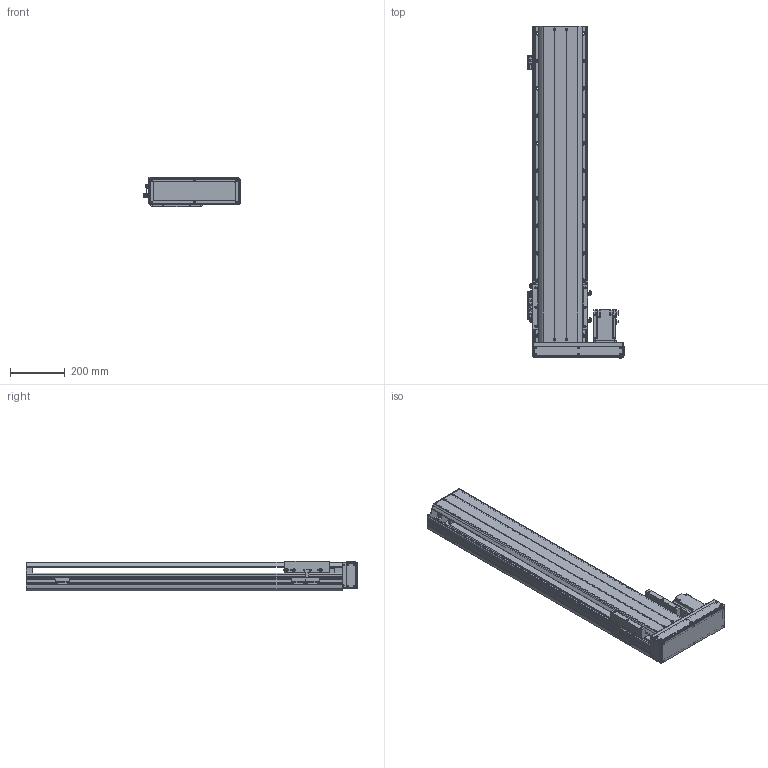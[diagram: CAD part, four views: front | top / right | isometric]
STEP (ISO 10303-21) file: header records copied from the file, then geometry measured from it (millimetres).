
FILE_DESCRIPTION(/* description */ ('MANUFACTURE'),/* implementation_level */ '2;1');
FILE_NAME(/* name */ '\\192.168.0.160\disk1\HAN SHIN Master\B-설계부문\C-표준\B-2024년\BC02-표준도면\+로봇 개선표준도면\표준 승인도 작업 폴더\3D\HG200\HG200병렬\우병렬\HG200-R70-N-0900-L10.stp',/* time_stamp */ '2024-02-23T17:54:25+09:00',/* author */ ('User'),/* organization */ (''),/* preprocessor_version */ 'ST-DEVELOPER v18.1',/* originating_system */ 'Autodesk Inventor 2022',/* authorisation */ 'LIP');
FILE_SCHEMA (('AUTOMOTIVE_DESIGN { 1 0 10303 214 3 1 1 }'));
Products named in the file (22): HG200-L70-N-0500-R10; HR200 S BASE-개선; HR180 FRONT BLOCK; HR180 FRONT BLOCK_1; HR120 STOPPER; HR200 S UPCOVER; HR200 TABLE (W,N); 750W MOTOR PLATE; HG200 750W LR MOTOR PLATE-사출; hg-kr73_; 화살표; HR160 400W LR BELT COVER; HR200 ACRYL COVER -1; HR200 ACRYL COVER -1_1; HR200 ACRYL COVER -1_2; HG200 BOTTOM COVER; HR200 SENSOR DOG; SENSOR BRK(EE-SX674A); EE_SX674A; hsr_ftht_A-M6F_grease_nipple_joint; NIPPLE CAP(신규); HR200 FRONT COVER
Assembly tree (36 placements, depth 2):
  HG200-L70-N-0500-R10
    HR200 S BASE-개선
    HR180 FRONT BLOCK
    HR180 FRONT BLOCK_1
    HR120 STOPPER  x2
    HR200 S UPCOVER
    HR200 TABLE (W,N)
    750W MOTOR PLATE
    HG200 750W LR MOTOR PLATE-사출
    hg-kr73_
    화살표  x2
    hsr_ftht_A-M6F_grease_nipple_joint  x5
    NIPPLE CAP(신규)  x5
    HR160 400W LR BELT COVER
    HR200 ACRYL COVER -1
    HR200 ACRYL COVER -1_1
    HR200 ACRYL COVER -1_2  x2
    HG200 BOTTOM COVER
    HR200 SENSOR DOG
    EE_SX674A  x3
    SENSOR BRK(EE-SX674A)  x3
    HR200 FRONT COVER
Bounding box: 351 x 1208 x 109 mm (x, y, z)
Volume: 7988505.7 mm3; surface area: 2183520.1 mm2
Topology: 36 solids, 36 shells, 3929 faces, 11108 edges, 7328 vertices
Faces by surface type: plane 2698, cylinder 896, cone 241, sphere 44, torus 30, bspline 20
Full cylindrical faces by diameter (mm): 2.459 x50, 3 x10, 3.242 x18, 3.4 x20, 3.5 x6, 4 x6, 4.134 x10, 4.5 x14, 4.917 x54, 5 x20, 5.5 x5, 5.6 x5, 5.9 x4, 6 x11, 6.5 x10, 6.6 x28, 6.647 x34, 7 x4, 7.6 x4, 8 x4, 9 x36, 9.5 x1, 11 x28, 14 x24, 19 x1, 25 x1, 27 x1, 30 x1, 32 x1, 38 x1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
Entity records: 112646 total; most frequent: CARTESIAN_POINT 22125, ORIENTED_EDGE 18844, DIRECTION 17628, EDGE_CURVE 9422, LINE 7490, VECTOR 7490, VERTEX_POINT 6296, AXIS2_PLACEMENT_3D 5069
